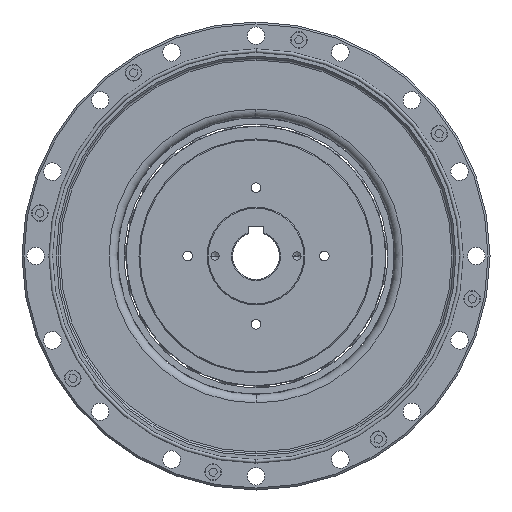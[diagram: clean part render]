
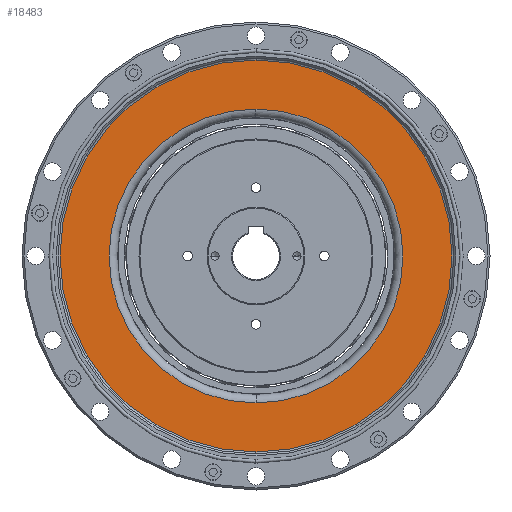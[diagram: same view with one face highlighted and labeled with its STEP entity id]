
A CAD part, left-side view. The second image highlights one B-rep face of the part: STEP entity #18483.
In plain terms, the highlighted planar face has unit normal (-1, 0, 0).
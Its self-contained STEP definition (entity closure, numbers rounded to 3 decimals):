
#1284 = CARTESIAN_POINT ( 'NONE',  ( 4.527, 101.5, 0. ) ) ;
#1376 = CIRCLE ( 'NONE', #5464, 100.5 ) ;
#1636 = AXIS2_PLACEMENT_3D ( 'NONE', #17764, #5901, #19798 ) ;
#2817 = CARTESIAN_POINT ( 'NONE',  ( 4.527, 0., 0. ) ) ;
#3414 = CIRCLE ( 'NONE', #18372, 75.365 ) ;
#4785 = DIRECTION ( 'NONE',  ( 0., 0., -1. ) ) ;
#5149 = FACE_BOUND ( 'NONE', #16143, .T. ) ;
#5232 = DIRECTION ( 'NONE',  ( -1., 0., 0. ) ) ;
#5464 = AXIS2_PLACEMENT_3D ( 'NONE', #19808, #7911, #21801 ) ;
#5901 = DIRECTION ( 'NONE',  ( -1., 0., 0. ) ) ;
#6040 = ORIENTED_EDGE ( 'NONE', *, *, #15321, .T. ) ;
#6427 = VERTEX_POINT ( 'NONE', #15226 ) ;
#6547 = AXIS2_PLACEMENT_3D ( 'NONE', #1284, #5232, #19129 ) ;
#7160 = EDGE_CURVE ( 'NONE', #8896, #14100, #1376, .T. ) ;
#7673 = FACE_OUTER_BOUND ( 'NONE', #25545, .T. ) ;
#7749 = CARTESIAN_POINT ( 'NONE',  ( 4.527, 0., 75.365 ) ) ;
#7911 = DIRECTION ( 'NONE',  ( -1., 0., 0. ) ) ;
#8533 = CARTESIAN_POINT ( 'NONE',  ( 4.527, 0., 0. ) ) ;
#8896 = VERTEX_POINT ( 'NONE', #12532 ) ;
#9289 = CIRCLE ( 'NONE', #12455, 75.365 ) ;
#10507 = DIRECTION ( 'NONE',  ( 0., 0., -1. ) ) ;
#11143 = PLANE ( 'NONE',  #6547 ) ;
#12455 = AXIS2_PLACEMENT_3D ( 'NONE', #8533, #22419, #10507 ) ;
#12532 = CARTESIAN_POINT ( 'NONE',  ( 4.527, 0., -100.5 ) ) ;
#13212 = EDGE_CURVE ( 'NONE', #6427, #17502, #9289, .T. ) ;
#14100 = VERTEX_POINT ( 'NONE', #20561 ) ;
#15226 = CARTESIAN_POINT ( 'NONE',  ( 4.527, 0., -75.365 ) ) ;
#15321 = EDGE_CURVE ( 'NONE', #14100, #8896, #23184, .T. ) ;
#16143 = EDGE_LOOP ( 'NONE', ( #20950, #18770 ) ) ;
#16666 = DIRECTION ( 'NONE',  ( 1., 0., 0. ) ) ;
#17502 = VERTEX_POINT ( 'NONE', #7749 ) ;
#17764 = CARTESIAN_POINT ( 'NONE',  ( 4.527, 0., 0. ) ) ;
#18372 = AXIS2_PLACEMENT_3D ( 'NONE', #2817, #16666, #4785 ) ;
#18483 = ADVANCED_FACE ( 'NONE', ( #7673, #5149 ), #11143, .T. ) ;
#18770 = ORIENTED_EDGE ( 'NONE', *, *, #19326, .T. ) ;
#19129 = DIRECTION ( 'NONE',  ( 0., 0., 1. ) ) ;
#19326 = EDGE_CURVE ( 'NONE', #17502, #6427, #3414, .T. ) ;
#19798 = DIRECTION ( 'NONE',  ( 0., 0., 1. ) ) ;
#19808 = CARTESIAN_POINT ( 'NONE',  ( 4.527, 0., 0. ) ) ;
#20561 = CARTESIAN_POINT ( 'NONE',  ( 4.527, 0., 100.5 ) ) ;
#20950 = ORIENTED_EDGE ( 'NONE', *, *, #13212, .T. ) ;
#21801 = DIRECTION ( 'NONE',  ( 0., 0., 1. ) ) ;
#22419 = DIRECTION ( 'NONE',  ( 1., 0., 0. ) ) ;
#23184 = CIRCLE ( 'NONE', #1636, 100.5 ) ;
#24980 = ORIENTED_EDGE ( 'NONE', *, *, #7160, .T. ) ;
#25545 = EDGE_LOOP ( 'NONE', ( #6040, #24980 ) ) ;
